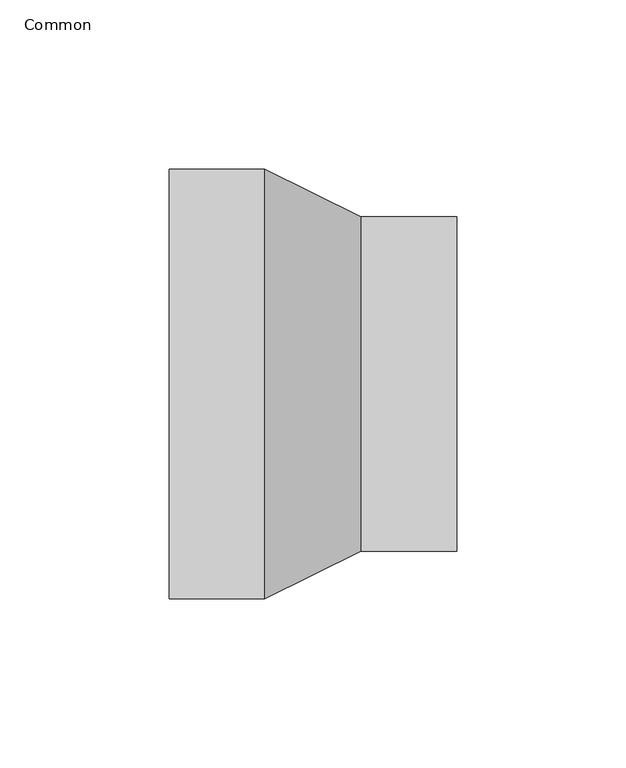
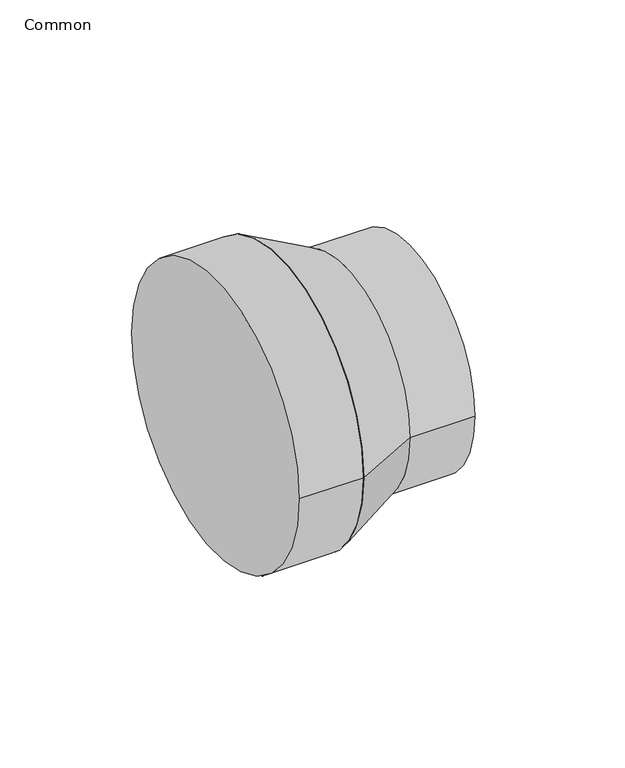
"""IFC4 building model written with IfcOpenShell, lengths in millimetres: pipe fitting geometry, 041_レジューサ : Common."""

import ifcopenshell
import ifcopenshell.guid

model = None  # the IFC model being written
_history = None  # IfcOwnerHistory: only IFC2X3 demands one
_inside = {}  # id of a spatial element -> (the spatial element, [elements in it])
_under = {}  # id of a project, library or spatial element -> (it, [spatial elements below it])
_declared = {}  # id of a project -> (the project, [libraries it declares])
_typed = {}  # id of a type object -> (the type object, [elements of that type])
_made_of = {}  # id of a material, layer set ... -> (it, [elements and type objects made of it])


def new_model(schema):
    """Start an empty IFC model of exactly this schema.

    Asked for "IFC4X3", IfcOpenShell would pick the latest addendum, in which some entities
    have other attributes; the version numbers below select the first issue.
    IFC2X3 requires an IfcOwnerHistory on every rooted entity: one is made here for all.
    """
    global model, _history
    if schema == "IFC4X3":
        model = ifcopenshell.file(schema_version=(4, 3, 0, 0))
    else:
        model = ifcopenshell.file(schema=schema)
    _inside.clear()
    _under.clear()
    _declared.clear()
    _typed.clear()
    _made_of.clear()
    _history = None
    if model.schema == "IFC2X3":
        org = make("IfcOrganization", Name="unknown")
        user = make(
            "IfcPersonAndOrganization",
            ThePerson=make("IfcPerson", FamilyName="unknown"),
            TheOrganization=org,
        )
        app = make(
            "IfcApplication",
            ApplicationDeveloper=org,
            Version="unknown",
            ApplicationFullName="unknown",
            ApplicationIdentifier="unknown",
        )
        _history = make(
            "IfcOwnerHistory",
            OwningUser=user,
            OwningApplication=app,
            ChangeAction="ADDED",
            CreationDate=0,
        )
    return model


def make(cls, **values):
    """One entity of the class cls with the attributes given. An attribute that is None is left unset."""
    return model.create_entity(
        cls, **{name: value for name, value in values.items() if value is not None}
    )


def rooted(cls, **values):
    """An entity with a GlobalId (a new one), such as an element, a storey or a relation."""
    return make(cls, GlobalId=ifcopenshell.guid.new(), OwnerHistory=_history, **values)


def si_unit(unit_type, name, prefix=None):
    """IfcSIUnit, for example si_unit("LENGTHUNIT", "METRE", prefix="MILLI")."""
    return make("IfcSIUnit", UnitType=unit_type, Prefix=prefix, Name=name)


def assignment(units):
    """IfcUnitAssignment: the units of a project."""
    return None if units is None else make("IfcUnitAssignment", Units=units)


def point(xyz):
    """IfcCartesianPoint."""
    return None if xyz is None else make("IfcCartesianPoint", Coordinates=xyz)


def direction(xyz):
    """IfcDirection."""
    return None if xyz is None else make("IfcDirection", DirectionRatios=xyz)


def frame(location, z_axis=None, x_axis=None):
    """IfcAxis2Placement3D, a coordinate frame: its origin and axes. An axis left out is left unset."""
    return make(
        "IfcAxis2Placement3D",
        Location=point(location),
        Axis=direction(z_axis),
        RefDirection=direction(x_axis),
    )


def frame_2d(location, x_axis=None):
    """IfcAxis2Placement2D, a coordinate frame in the plane: its origin and x axis."""
    return make(
        "IfcAxis2Placement2D", Location=point(location), RefDirection=direction(x_axis)
    )


def origin():
    """The frame at (0, 0, 0) with its axes left unset."""
    return frame((0.0, 0.0, 0.0))


def origin_2d():
    """The frame at (0, 0) in the plane with its x axis left unset."""
    return frame_2d((0.0, 0.0))


def place(relative_to, where):
    """IfcLocalPlacement: puts the frame where relative to a parent placement (None: the world)."""
    return make(
        "IfcLocalPlacement", PlacementRelTo=relative_to, RelativePlacement=where
    )


def context(
    kind, dimensions, precision=None, world=None, true_north=None, identifier=None
):
    """IfcGeometricRepresentationContext, for example the 3D "Model" context."""
    return make(
        "IfcGeometricRepresentationContext",
        ContextIdentifier=identifier,
        ContextType=kind,
        CoordinateSpaceDimension=dimensions,
        Precision=precision,
        WorldCoordinateSystem=world,
        TrueNorth=true_north,
    )


def project(units=None, contexts=None):
    """IfcProject with its units and contexts."""
    return rooted(
        "IfcProject",
        Name="project",
        RepresentationContexts=contexts,
        UnitsInContext=assignment(units),
    )


def spatial(cls, under=None, at=None, **own):
    """A site, building, storey or space (cls), placed at a placement, below another one or the project."""
    s = rooted(cls, ObjectPlacement=at, **own)
    if under is not None:
        _under.setdefault(under.id(), (under, []))[1].append(s)
    return s


def polyline(points):
    """IfcPolyline through the points."""
    return make("IfcPolyline", Points=[point(p) for p in points])


def circle_curve(where, radius):
    """IfcCircle in the frame where."""
    return make("IfcCircle", Position=where, Radius=radius)


def trimmed(basis, trim1, trim2, sense, master):
    """IfcTrimmedCurve: the piece of a basis curve between two trims."""
    return make(
        "IfcTrimmedCurve",
        BasisCurve=basis,
        Trim1=trim1,
        Trim2=trim2,
        SenseAgreement=sense,
        MasterRepresentation=master,
    )


def segment(curve, same_sense, transition):
    """IfcCompositeCurveSegment."""
    return make(
        "IfcCompositeCurveSegment",
        Transition=transition,
        SameSense=same_sense,
        ParentCurve=curve,
    )


def composite_curve(segments, self_intersect=None):
    """IfcCompositeCurve: segments joined end to end."""
    return make("IfcCompositeCurve", Segments=segments, SelfIntersect=self_intersect)


def outline(outer, holes=None, kind="AREA"):
    """IfcArbitraryClosedProfileDef: a profile drawn as a closed curve; with holes, ...WithVoids."""
    if holes is None:
        return make("IfcArbitraryClosedProfileDef", ProfileType=kind, OuterCurve=outer)
    return make(
        "IfcArbitraryProfileDefWithVoids",
        ProfileType=kind,
        OuterCurve=outer,
        InnerCurves=holes,
    )


def extrude(swept, where, along, depth):
    """IfcExtrudedAreaSolid: the profile swept, set in the frame where, extruded along a direction by depth."""
    return make(
        "IfcExtrudedAreaSolid",
        SweptArea=swept,
        Position=where,
        ExtrudedDirection=direction(along),
        Depth=depth,
    )


def shape(context_of_items, identifier, shape_type, items):
    """IfcShapeRepresentation: the items that make up one representation, for example the "Body"."""
    return make(
        "IfcShapeRepresentation",
        ContextOfItems=context_of_items,
        RepresentationIdentifier=identifier,
        RepresentationType=shape_type,
        Items=items,
    )


def source(mapping_origin, context_of_items, identifier, shape_type, items):
    """IfcRepresentationMap: a shape defined once, which mapped items show again and again."""
    return make(
        "IfcRepresentationMap",
        MappingOrigin=mapping_origin,
        MappedRepresentation=shape(context_of_items, identifier, shape_type, items),
    )


def transform(
    local_origin,
    x_axis=None,
    y_axis=None,
    z_axis=None,
    scale=None,
    scale2=None,
    scale3=None,
    uniform=True,
):
    """IfcCartesianTransformationOperator3D, or its non-uniform kind. x_axis, y_axis, z_axis: its Axis1, 2, 3."""
    if uniform:
        return make(
            "IfcCartesianTransformationOperator3D",
            Axis1=direction(x_axis),
            Axis2=direction(y_axis),
            LocalOrigin=point(local_origin),
            Scale=scale,
            Axis3=direction(z_axis),
        )
    return make(
        "IfcCartesianTransformationOperator3DnonUniform",
        Axis1=direction(x_axis),
        Axis2=direction(y_axis),
        LocalOrigin=point(local_origin),
        Scale=scale,
        Axis3=direction(z_axis),
        Scale2=scale2,
        Scale3=scale3,
    )


def mapped(mapping_source, mapping_target):
    """IfcMappedItem: shows the shape of a source again, moved by a transform."""
    return make(
        "IfcMappedItem", MappingSource=mapping_source, MappingTarget=mapping_target
    )


def made_of(thing, what):
    """Note that an element or type object is made of a material, layer set ...; save() writes the relation."""
    if what is not None:
        _made_of.setdefault(what.id(), (what, []))[1].append(thing)
    return thing


def element(
    cls,
    number,
    at=None,
    inside=None,
    cuts=None,
    type_object=None,
    material=None,
    context=None,
    identifier="Body",
    shape_type=None,
    held_by="IfcProductDefinitionShape",
    body=None,
    shapes=None,
    **own,
):
    """One element of the class cls, such as IfcWall. Its Tag is "e" and its number.

    at: its placement. inside: the storey or other place that contains it. cuts: it is an
    opening in that element (IfcRelVoidsElement). A single representation is given by context,
    identifier, shape_type and body (its items); several are given by shapes. held_by: the class
    of the entity that holds the representations. save() writes the other relations.
    """
    e = rooted(cls, Tag="e%d" % number, ObjectPlacement=at, **own)
    if body is not None:
        shapes = [shape(context, identifier, shape_type, body)]
    if shapes is not None:
        e.Representation = make(held_by, Representations=shapes)
    if inside is not None:
        _inside.setdefault(inside.id(), (inside, []))[1].append(e)
    if cuts is not None:
        rooted(
            "IfcRelVoidsElement", RelatingBuildingElement=cuts, RelatedOpeningElement=e
        )
    if type_object is not None:
        _typed.setdefault(type_object.id(), (type_object, []))[1].append(e)
    return made_of(e, material)


def aggregate(whole, parts):
    """IfcRelAggregates: a whole, such as a stair, and the parts it consists of."""
    return rooted("IfcRelAggregates", RelatingObject=whole, RelatedObjects=parts)


def save(model, path):
    """Write the relations noted so far, then the file.

    IfcRelAggregates (storeys below a building ...), IfcRelContainedInSpatialStructure (elements
    in a storey), IfcRelDefinesByType, IfcRelAssociatesMaterial and IfcRelDeclares: one each for
    every whole, place, type object, material and project.
    """
    for whole, parts in _under.values():
        aggregate(whole, parts)
    for where, things in _inside.values():
        rooted(
            "IfcRelContainedInSpatialStructure",
            RelatedElements=things,
            RelatingStructure=where,
        )
    for kind, things in _typed.values():
        rooted("IfcRelDefinesByType", RelatedObjects=things, RelatingType=kind)
    for what, things in _made_of.values():
        rooted("IfcRelAssociatesMaterial", RelatedObjects=things, RelatingMaterial=what)
    for by, libraries in _declared.values():
        rooted("IfcRelDeclares", RelatingContext=by, RelatedDefinitions=libraries)
    model.write(path)


def plane_surface(at):
    """IfcPlane: the flat surface through the origin of the frame at, square to its z axis."""
    return make("IfcPlane", Position=at)


def revolved_surface(curve, axis_point, axis_direction):
    """IfcSurfaceOfRevolution: the curve turned about the line through axis_point along axis_direction."""
    return make(
        "IfcSurfaceOfRevolution",
        SweptCurve=make("IfcArbitraryOpenProfileDef", ProfileType="CURVE", Curve=curve),
        AxisPosition=make("IfcAxis1Placement", Location=point(axis_point), Axis=direction(axis_direction)),
    )


def advanced_brep(points, edges, surfaces, faces):
    """IfcAdvancedBrep: a solid bounded by faces that lie on surfaces and meet in shared edges.

    An edge is (start, end): straight between two places in points (the first is 0);
    or (start, end, curve); or (start, end, curve, False) where it runs against its curve.
    A face is (place in surfaces, loops), or (place, loops, False) where it looks against
    its surface's normal. A loop lists edges by number (the first is 1), with a minus sign
    where the edge is run from its end to its start. The first loop is the outer one.
    """
    corners = [point(p) for p in points]
    vertices = [make("IfcVertexPoint", VertexGeometry=c) for c in corners]
    made = []
    for start, end, *more in edges:
        made.append(
            make(
                "IfcEdgeCurve",
                EdgeStart=vertices[start],
                EdgeEnd=vertices[end],
                EdgeGeometry=more[0] if more else make("IfcPolyline", Points=[corners[start], corners[end]]),
                SameSense=more[1] if len(more) > 1 else True,
            )
        )
    hull = []
    for where, loops, *sense in faces:
        bounds = []
        for j, loop in enumerate(loops):
            ring = [make("IfcOrientedEdge", EdgeElement=made[abs(k) - 1], Orientation=k > 0) for k in loop]
            bounds.append(
                make(
                    "IfcFaceOuterBound" if j == 0 else "IfcFaceBound",
                    Bound=make("IfcEdgeLoop", EdgeList=ring),
                    Orientation=True,
                )
            )
        hull.append(make("IfcAdvancedFace", Bounds=bounds, FaceSurface=surfaces[where], SameSense=sense[0] if sense else True))
    return make("IfcAdvancedBrep", Outer=make("IfcClosedShell", CfsFaces=hull))


def common_93091ae8(model_context):
    return source(origin(), model_context, "Body", "SolidModel", [
        advanced_brep(
        [(56.6666667, -49.5, 0.0), (56.6666667, 49.5, 0.0), (28.3333333, -63.5, 0.0), (28.3333333, 63.5, 0.0)],
        [
            (0, 1, circle_curve(frame((56.6666667, 0.0, 0.0), z_axis=(1.0, 0.0, 0.0), x_axis=(0.0, -1.0, 0.0)), 49.5)),
            (1, 0, circle_curve(frame((56.6666667, 0.0, 0.0), z_axis=(1.0, 0.0, 0.0), x_axis=(0.0, 1.0, 0.0)), 49.5)),
            (2, 3, circle_curve(frame((28.3333333, 0.0, 0.0), z_axis=(-1.0, 0.0, 0.0), x_axis=(0.0, 1.0, 0.0)), 63.5)),
            (3, 2, circle_curve(frame((28.3333333, 0.0, 0.0), z_axis=(-1.0, 0.0, 0.0), x_axis=(0.0, -1.0, 0.0)), 63.5)),
            (3, 1),
            (0, 2),
        ],
        [
            plane_surface(frame((56.6666667, 0.0, 0.0), z_axis=(1.0, 0.0, 0.0), x_axis=(0.0, 0.0, -1.0))),
            plane_surface(frame((28.3333333, 0.0, 0.0), z_axis=(-1.0, 0.0, 0.0), x_axis=(0.0, 0.0, -1.0))),
            revolved_surface(polyline([(56.66666670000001, -49.49999997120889, 0.0), (28.333333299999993, -63.5, 0.0)]), (156.8452381, 0.0, 0.0), (-1.0, 0.0, 0.0)),
            revolved_surface(polyline([(56.66666670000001, 49.49999997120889, 0.0), (28.333333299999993, 63.5, 0.0)]), (156.8452381, 0.0, 0.0), (-1.0, 0.0, 0.0)),
        ],
        [
            (0, [[1, 2]]),
            (1, [[3, 4]]),
            (2, [[-4, 5, -1, 6]]),
            (3, [[-3, -6, -2, -5]]),
        ],
    ),
        extrude(outline(composite_curve([segment(trimmed(circle_curve(origin_2d(), 49.5), [point((-49.5, 0.0))], [point((49.5, 0.0))], False, "CARTESIAN"), True, "CONTINUOUS"), segment(trimmed(circle_curve(origin_2d(), 49.5), [point((49.5, 0.0))], [point((-49.5, 0.0))], False, "CARTESIAN"), True, "CONTINUOUS")], self_intersect=False)), frame((56.6666667, 0.0, 0.0), z_axis=(1.0, 0.0, 0.0), x_axis=(0.0, 1.0, 0.0)), (0.0, 0.0, 1.0), 28.3333333),
        extrude(outline(composite_curve([segment(trimmed(circle_curve(origin_2d(), 63.5), [point((-63.5, 0.0))], [point((63.5, 0.0))], False, "CARTESIAN"), True, "CONTINUOUS"), segment(trimmed(circle_curve(origin_2d(), 63.5), [point((63.5, 0.0))], [point((-63.5, 0.0))], False, "CARTESIAN"), True, "CONTINUOUS")], self_intersect=False)), frame((0.0, 0.0, 0.0), z_axis=(1.0, 0.0, 0.0), x_axis=(0.0, 1.0, 0.0)), (0.0, 0.0, 1.0), 28.3333333),
    ])


if __name__ == "__main__":
    model = new_model("IFC4")
    model_context = context("Model", 3, world=origin())
    ifc_project = project(units=[si_unit("LENGTHUNIT", "METRE", prefix="MILLI")], contexts=[model_context])
    site = spatial("IfcSite", under=ifc_project)
    building = spatial("IfcBuilding", under=site)
    placement = place(None, origin())
    common_shape = common_93091ae8(model_context)
    element("IfcPipeFitting", 1, ObjectType="041_レジューサ : Common", at=placement, inside=building, context=model_context, shape_type="MappedRepresentation", body=[
        mapped(common_shape, transform((0.0, 0.0, 0.0), x_axis=(1.0, 0.0, 0.0), y_axis=(0.0, 1.0, 0.0), z_axis=(0.0, 0.0, 1.0))),
    ])
    save(model, "model.ifc")
